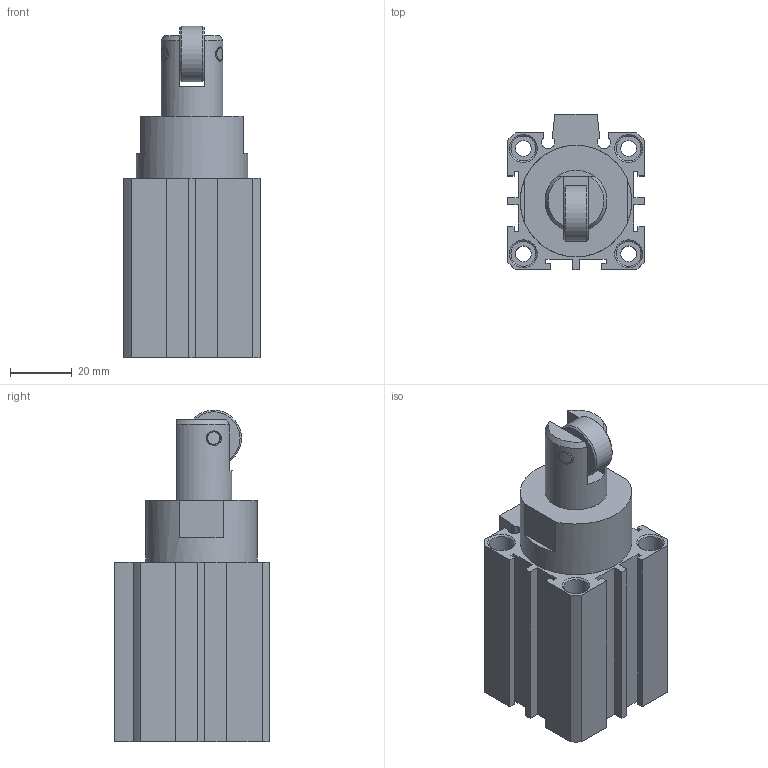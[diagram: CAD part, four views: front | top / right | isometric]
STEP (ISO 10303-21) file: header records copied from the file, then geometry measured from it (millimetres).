
FILE_DESCRIPTION((''),'2;1');
FILE_NAME('I:\3D電子目錄\氣缸\STC\STC\STC32\STC32x10.stp','2007-09-19T15:45:30',('Administrator'),(''),'Autodesk Inventor 11','Autodesk Inventor 11','');
FILE_SCHEMA(('AUTOMOTIVE_DESIGN { 1 0 10303 214 1 1 1 1 }'));
Length unit declared in the file: millimetre
Products named in the file (1): STC32
Bounding box: 44 x 50 x 107 mm (x, y, z)
Volume: 123403.9 mm3; surface area: 29466.2 mm2
Topology: 2 solids, 2 shells, 138 faces, 327 edges, 214 vertices
Faces by surface type: plane 78, cylinder 34, cone 16, bspline 9, torus 1
Full cylindrical faces by diameter (mm): 2.2 x2, 4 x2, 4.2 x2, 5.1 x4, 8 x8, 18 x1, 23 x1, 34 x2, 36 x2
Entity records: 4403 total; most frequent: CARTESIAN_POINT 1367, DIRECTION 612, ORIENTED_EDGE 550, EDGE_CURVE 275, AXIS2_PLACEMENT_3D 219, EDGE_LOOP 214, VERTEX_POINT 205, VECTOR 174
